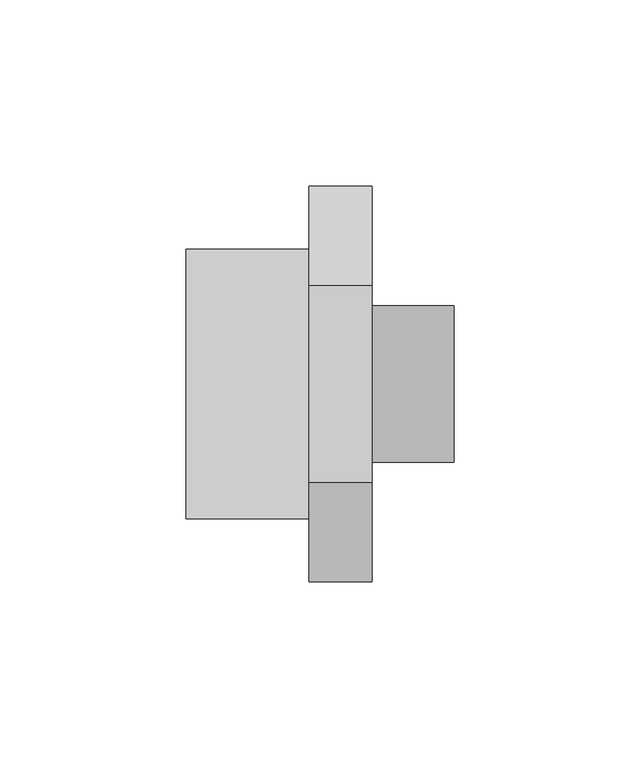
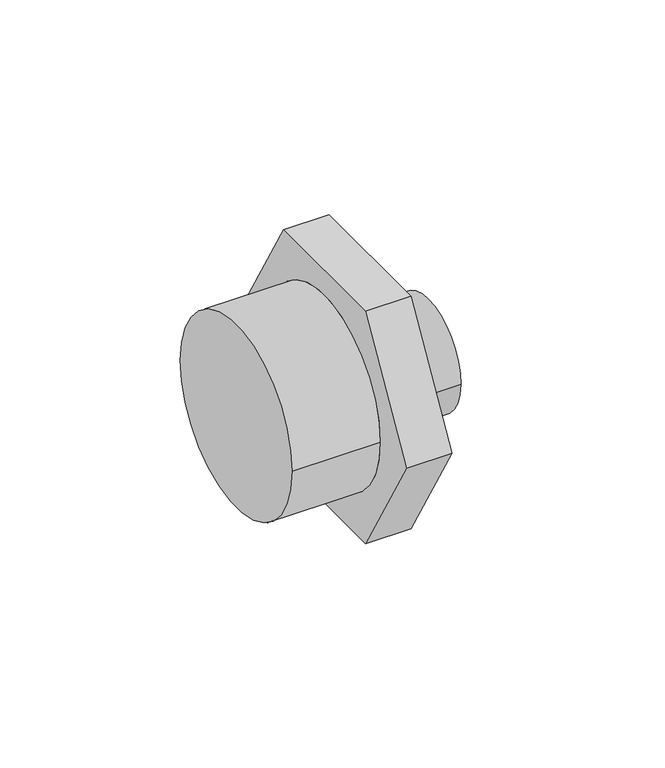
"""IFC4 building model written with IfcOpenShell, lengths in millimetres: pipe fitting geometry, 01011197 : Casquilho Duplo Redução."""

import ifcopenshell
import ifcopenshell.guid

model = None  # the IFC model being written
_history = None  # IfcOwnerHistory: only IFC2X3 demands one
_inside = {}  # id of a spatial element -> (the spatial element, [elements in it])
_under = {}  # id of a project, library or spatial element -> (it, [spatial elements below it])
_declared = {}  # id of a project -> (the project, [libraries it declares])
_typed = {}  # id of a type object -> (the type object, [elements of that type])
_made_of = {}  # id of a material, layer set ... -> (it, [elements and type objects made of it])


def new_model(schema):
    """Start an empty IFC model of exactly this schema.

    Asked for "IFC4X3", IfcOpenShell would pick the latest addendum, in which some entities
    have other attributes; the version numbers below select the first issue.
    IFC2X3 requires an IfcOwnerHistory on every rooted entity: one is made here for all.
    """
    global model, _history
    if schema == "IFC4X3":
        model = ifcopenshell.file(schema_version=(4, 3, 0, 0))
    else:
        model = ifcopenshell.file(schema=schema)
    _inside.clear()
    _under.clear()
    _declared.clear()
    _typed.clear()
    _made_of.clear()
    _history = None
    if model.schema == "IFC2X3":
        org = make("IfcOrganization", Name="unknown")
        user = make(
            "IfcPersonAndOrganization",
            ThePerson=make("IfcPerson", FamilyName="unknown"),
            TheOrganization=org,
        )
        app = make(
            "IfcApplication",
            ApplicationDeveloper=org,
            Version="unknown",
            ApplicationFullName="unknown",
            ApplicationIdentifier="unknown",
        )
        _history = make(
            "IfcOwnerHistory",
            OwningUser=user,
            OwningApplication=app,
            ChangeAction="ADDED",
            CreationDate=0,
        )
    return model


def make(cls, **values):
    """One entity of the class cls with the attributes given. An attribute that is None is left unset."""
    return model.create_entity(
        cls, **{name: value for name, value in values.items() if value is not None}
    )


def rooted(cls, **values):
    """An entity with a GlobalId (a new one), such as an element, a storey or a relation."""
    return make(cls, GlobalId=ifcopenshell.guid.new(), OwnerHistory=_history, **values)


def si_unit(unit_type, name, prefix=None):
    """IfcSIUnit, for example si_unit("LENGTHUNIT", "METRE", prefix="MILLI")."""
    return make("IfcSIUnit", UnitType=unit_type, Prefix=prefix, Name=name)


def assignment(units):
    """IfcUnitAssignment: the units of a project."""
    return None if units is None else make("IfcUnitAssignment", Units=units)


def point(xyz):
    """IfcCartesianPoint."""
    return None if xyz is None else make("IfcCartesianPoint", Coordinates=xyz)


def direction(xyz):
    """IfcDirection."""
    return None if xyz is None else make("IfcDirection", DirectionRatios=xyz)


def frame(location, z_axis=None, x_axis=None):
    """IfcAxis2Placement3D, a coordinate frame: its origin and axes. An axis left out is left unset."""
    return make(
        "IfcAxis2Placement3D",
        Location=point(location),
        Axis=direction(z_axis),
        RefDirection=direction(x_axis),
    )


def origin():
    """The frame at (0, 0, 0) with its axes left unset."""
    return frame((0.0, 0.0, 0.0))


def place(relative_to, where):
    """IfcLocalPlacement: puts the frame where relative to a parent placement (None: the world)."""
    return make(
        "IfcLocalPlacement", PlacementRelTo=relative_to, RelativePlacement=where
    )


def context(
    kind, dimensions, precision=None, world=None, true_north=None, identifier=None
):
    """IfcGeometricRepresentationContext, for example the 3D "Model" context."""
    return make(
        "IfcGeometricRepresentationContext",
        ContextIdentifier=identifier,
        ContextType=kind,
        CoordinateSpaceDimension=dimensions,
        Precision=precision,
        WorldCoordinateSystem=world,
        TrueNorth=true_north,
    )


def project(units=None, contexts=None):
    """IfcProject with its units and contexts."""
    return rooted(
        "IfcProject",
        Name="project",
        RepresentationContexts=contexts,
        UnitsInContext=assignment(units),
    )


def spatial(cls, under=None, at=None, **own):
    """A site, building, storey or space (cls), placed at a placement, below another one or the project."""
    s = rooted(cls, ObjectPlacement=at, **own)
    if under is not None:
        _under.setdefault(under.id(), (under, []))[1].append(s)
    return s


def circle_curve(where, radius):
    """IfcCircle in the frame where."""
    return make("IfcCircle", Position=where, Radius=radius)


def shape(context_of_items, identifier, shape_type, items):
    """IfcShapeRepresentation: the items that make up one representation, for example the "Body"."""
    return make(
        "IfcShapeRepresentation",
        ContextOfItems=context_of_items,
        RepresentationIdentifier=identifier,
        RepresentationType=shape_type,
        Items=items,
    )


def source(mapping_origin, context_of_items, identifier, shape_type, items):
    """IfcRepresentationMap: a shape defined once, which mapped items show again and again."""
    return make(
        "IfcRepresentationMap",
        MappingOrigin=mapping_origin,
        MappedRepresentation=shape(context_of_items, identifier, shape_type, items),
    )


def transform(
    local_origin,
    x_axis=None,
    y_axis=None,
    z_axis=None,
    scale=None,
    scale2=None,
    scale3=None,
    uniform=True,
):
    """IfcCartesianTransformationOperator3D, or its non-uniform kind. x_axis, y_axis, z_axis: its Axis1, 2, 3."""
    if uniform:
        return make(
            "IfcCartesianTransformationOperator3D",
            Axis1=direction(x_axis),
            Axis2=direction(y_axis),
            LocalOrigin=point(local_origin),
            Scale=scale,
            Axis3=direction(z_axis),
        )
    return make(
        "IfcCartesianTransformationOperator3DnonUniform",
        Axis1=direction(x_axis),
        Axis2=direction(y_axis),
        LocalOrigin=point(local_origin),
        Scale=scale,
        Axis3=direction(z_axis),
        Scale2=scale2,
        Scale3=scale3,
    )


def mapped(mapping_source, mapping_target):
    """IfcMappedItem: shows the shape of a source again, moved by a transform."""
    return make(
        "IfcMappedItem", MappingSource=mapping_source, MappingTarget=mapping_target
    )


def made_of(thing, what):
    """Note that an element or type object is made of a material, layer set ...; save() writes the relation."""
    if what is not None:
        _made_of.setdefault(what.id(), (what, []))[1].append(thing)
    return thing


def element(
    cls,
    number,
    at=None,
    inside=None,
    cuts=None,
    type_object=None,
    material=None,
    context=None,
    identifier="Body",
    shape_type=None,
    held_by="IfcProductDefinitionShape",
    body=None,
    shapes=None,
    **own,
):
    """One element of the class cls, such as IfcWall. Its Tag is "e" and its number.

    at: its placement. inside: the storey or other place that contains it. cuts: it is an
    opening in that element (IfcRelVoidsElement). A single representation is given by context,
    identifier, shape_type and body (its items); several are given by shapes. held_by: the class
    of the entity that holds the representations. save() writes the other relations.
    """
    e = rooted(cls, Tag="e%d" % number, ObjectPlacement=at, **own)
    if body is not None:
        shapes = [shape(context, identifier, shape_type, body)]
    if shapes is not None:
        e.Representation = make(held_by, Representations=shapes)
    if inside is not None:
        _inside.setdefault(inside.id(), (inside, []))[1].append(e)
    if cuts is not None:
        rooted(
            "IfcRelVoidsElement", RelatingBuildingElement=cuts, RelatedOpeningElement=e
        )
    if type_object is not None:
        _typed.setdefault(type_object.id(), (type_object, []))[1].append(e)
    return made_of(e, material)


def aggregate(whole, parts):
    """IfcRelAggregates: a whole, such as a stair, and the parts it consists of."""
    return rooted("IfcRelAggregates", RelatingObject=whole, RelatedObjects=parts)


def save(model, path):
    """Write the relations noted so far, then the file.

    IfcRelAggregates (storeys below a building ...), IfcRelContainedInSpatialStructure (elements
    in a storey), IfcRelDefinesByType, IfcRelAssociatesMaterial and IfcRelDeclares: one each for
    every whole, place, type object, material and project.
    """
    for whole, parts in _under.values():
        aggregate(whole, parts)
    for where, things in _inside.values():
        rooted(
            "IfcRelContainedInSpatialStructure",
            RelatedElements=things,
            RelatingStructure=where,
        )
    for kind, things in _typed.values():
        rooted("IfcRelDefinesByType", RelatedObjects=things, RelatingType=kind)
    for what, things in _made_of.values():
        rooted("IfcRelAssociatesMaterial", RelatedObjects=things, RelatingMaterial=what)
    for by, libraries in _declared.values():
        rooted("IfcRelDeclares", RelatingContext=by, RelatedDefinitions=libraries)
    model.write(path)


def plane_surface(at):
    """IfcPlane: the flat surface through the origin of the frame at, square to its z axis."""
    return make("IfcPlane", Position=at)


def cylinder_surface(at, radius):
    """IfcCylindricalSurface: all points at the distance radius from the z axis of the frame at."""
    return make("IfcCylindricalSurface", Position=at, Radius=radius)


def advanced_brep(points, edges, surfaces, faces):
    """IfcAdvancedBrep: a solid bounded by faces that lie on surfaces and meet in shared edges.

    An edge is (start, end): straight between two places in points (the first is 0);
    or (start, end, curve); or (start, end, curve, False) where it runs against its curve.
    A face is (place in surfaces, loops), or (place, loops, False) where it looks against
    its surface's normal. A loop lists edges by number (the first is 1), with a minus sign
    where the edge is run from its end to its start. The first loop is the outer one.
    """
    corners = [point(p) for p in points]
    vertices = [make("IfcVertexPoint", VertexGeometry=c) for c in corners]
    made = []
    for start, end, *more in edges:
        made.append(
            make(
                "IfcEdgeCurve",
                EdgeStart=vertices[start],
                EdgeEnd=vertices[end],
                EdgeGeometry=more[0] if more else make("IfcPolyline", Points=[corners[start], corners[end]]),
                SameSense=more[1] if len(more) > 1 else True,
            )
        )
    hull = []
    for where, loops, *sense in faces:
        bounds = []
        for j, loop in enumerate(loops):
            ring = [make("IfcOrientedEdge", EdgeElement=made[abs(k) - 1], Orientation=k > 0) for k in loop]
            bounds.append(
                make(
                    "IfcFaceOuterBound" if j == 0 else "IfcFaceBound",
                    Bound=make("IfcEdgeLoop", EdgeList=ring),
                    Orientation=True,
                )
            )
        hull.append(make("IfcAdvancedFace", Bounds=bounds, FaceSurface=surfaces[where], SameSense=sense[0] if sense else True))
    return make("IfcAdvancedBrep", Outer=make("IfcClosedShell", CfsFaces=hull))


def pipe_fitting_3076c0e5(model_context):
    return source(origin(), model_context, "Body", "AdvancedBrep", [
        advanced_brep(
        [(50.0, -26.5581124, 46.0), (50.0, -53.1162248, 0.0), (50.0, -26.5581124, -46.0), (50.0, 26.5581124, -46.0), (50.0, 53.1162248, 0.0), (50.0, 26.5581124, 46.0), (50.0, -20.955, 0.0), (50.0, 20.955, 0.0), (33.0, -26.5581124, 46.0), (33.0, 26.5581124, 46.0), (33.0, 53.1162248, 0.0), (33.0, 26.5581124, -46.0), (33.0, -26.5581124, -46.0), (33.0, -53.1162248, 0.0), (33.0, 36.195, 0.0), (33.0, -36.195, 0.0), (72.0, -20.955, 0.0), (72.0, 20.955, 0.0), (0.0, 36.195, 0.0), (0.0, -36.195, 0.0)],
        [
            (0, 1),
            (1, 2),
            (2, 3),
            (3, 4),
            (4, 5),
            (5, 0),
            (6, 7, circle_curve(frame((50.0, 0.0, 0.0), z_axis=(-1.0, 0.0, 0.0), x_axis=(0.0, 1.0, 0.0)), 20.955)),
            (7, 6, circle_curve(frame((50.0, 0.0, 0.0), z_axis=(-1.0, 0.0, 0.0), x_axis=(0.0, 1.0, 0.0)), 20.955)),
            (8, 9),
            (9, 10),
            (10, 11),
            (11, 12),
            (12, 13),
            (13, 8),
            (14, 15, circle_curve(frame((33.0, 0.0, 0.0), z_axis=(1.0, 0.0, 0.0), x_axis=(0.0, -1.0, 0.0)), 36.195)),
            (15, 14, circle_curve(frame((33.0, 0.0, 0.0), z_axis=(1.0, 0.0, 0.0), x_axis=(0.0, -1.0, 0.0)), 36.195)),
            (0, 8),
            (13, 1),
            (12, 2),
            (11, 3),
            (10, 4),
            (9, 5),
            (16, 17, circle_curve(frame((72.0, 0.0, 0.0), z_axis=(1.0, 0.0, 0.0), x_axis=(0.0, 1.0, 0.0)), 20.955)),
            (17, 16, circle_curve(frame((72.0, 0.0, 0.0), z_axis=(1.0, 0.0, 0.0), x_axis=(0.0, 1.0, 0.0)), 20.955)),
            (17, 7),
            (6, 16),
            (18, 19, circle_curve(frame((0.0, 0.0, 0.0), z_axis=(-1.0, 0.0, 0.0), x_axis=(0.0, -1.0, 0.0)), 36.195)),
            (19, 18, circle_curve(frame((0.0, 0.0, 0.0), z_axis=(-1.0, 0.0, 0.0), x_axis=(0.0, -1.0, 0.0)), 36.195)),
            (19, 15),
            (14, 18),
        ],
        [
            plane_surface(frame((50.0, -26.5581124, 46.0), z_axis=(1.0, 0.0, 0.0), x_axis=(0.0, -0.500000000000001, -0.866025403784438))),
            plane_surface(frame((33.0, -26.5581124, 46.0), z_axis=(-1.0, 0.0, 0.0), x_axis=(0.0, 0.500000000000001, 0.866025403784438))),
            plane_surface(frame((50.0, -26.5581124, 46.0), z_axis=(0.0, -0.866025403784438, 0.500000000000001), x_axis=(-1.0, 0.0, 0.0))),
            plane_surface(frame((50.0, -53.1162248, 0.0), z_axis=(0.0, -0.866025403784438, -0.500000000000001), x_axis=(-1.0, 0.0, 0.0))),
            plane_surface(frame((50.0, -26.5581124, -46.0), z_axis=(0.0, 0.0, -1.0), x_axis=(-1.0, 0.0, 0.0))),
            plane_surface(frame((50.0, 26.5581124, -46.0), z_axis=(0.0, 0.8660254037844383, -0.5000000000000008), x_axis=(-1.0, 0.0, 0.0))),
            plane_surface(frame((50.0, 53.1162248, 0.0), z_axis=(0.0, 0.8660254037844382, 0.5000000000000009), x_axis=(-1.0, 0.0, 0.0))),
            plane_surface(frame((50.0, 26.5581124, 46.0), z_axis=(0.0, 0.0, 1.0), x_axis=(-1.0, 0.0, 0.0))),
            plane_surface(frame((72.0, 0.0, 0.0), z_axis=(1.0, 0.0, 0.0), x_axis=(0.0, 0.0, 1.0))),
            cylinder_surface(frame((50.0, 0.0, 0.0), z_axis=(-1.0, 0.0, 0.0), x_axis=(0.0, 1.0, 0.0)), 20.955),
            plane_surface(frame((0.0, 0.0, 0.0), z_axis=(-1.0, 0.0, 0.0), x_axis=(0.0, 0.0, 1.0))),
            cylinder_surface(frame((33.0, 0.0, 0.0), z_axis=(1.0, 0.0, 0.0), x_axis=(0.0, -1.0, 0.0)), 36.195),
        ],
        [
            (0, [[1, 2, 3, 4, 5, 6], [7, 8]]),
            (1, [[9, 10, 11, 12, 13, 14], [15, 16]]),
            (2, [[-1, 17, -14, 18]]),
            (3, [[-2, -18, -13, 19]]),
            (4, [[-3, -19, -12, 20]]),
            (5, [[-4, -20, -11, 21]]),
            (6, [[-5, -21, -10, 22]]),
            (7, [[-6, -22, -9, -17]]),
            (8, [[23, 24]]),
            (9, [[-24, 25, -7, 26]]),
            (9, [[-23, -26, -8, -25]]),
            (10, [[27, 28]]),
            (11, [[-28, 29, -15, 30]]),
            (11, [[-27, -30, -16, -29]]),
        ],
    ),
    ])


if __name__ == "__main__":
    model = new_model("IFC4")
    model_context = context("Model", 3, world=origin())
    ifc_project = project(units=[si_unit("LENGTHUNIT", "METRE", prefix="MILLI")], contexts=[model_context])
    site = spatial("IfcSite", under=ifc_project)
    building = spatial("IfcBuilding", under=site)
    placement = place(None, origin())
    pipe_fitting_shape = pipe_fitting_3076c0e5(model_context)
    element("IfcPipeFitting", 1, ObjectType="01011197 : Casquilho Duplo Redução", at=placement, inside=building, context=model_context, shape_type="MappedRepresentation", body=[
        mapped(pipe_fitting_shape, transform((0.0, 0.0, 0.0), x_axis=(1.0, 0.0, 0.0), y_axis=(0.0, 1.0, 0.0), z_axis=(0.0, 0.0, 1.0))),
    ])
    save(model, "model.ifc")
